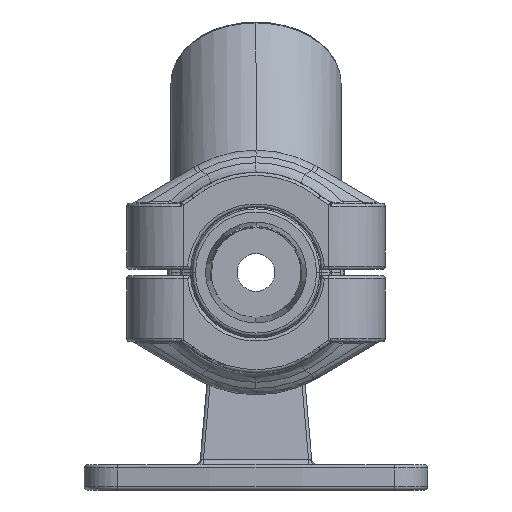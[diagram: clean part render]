
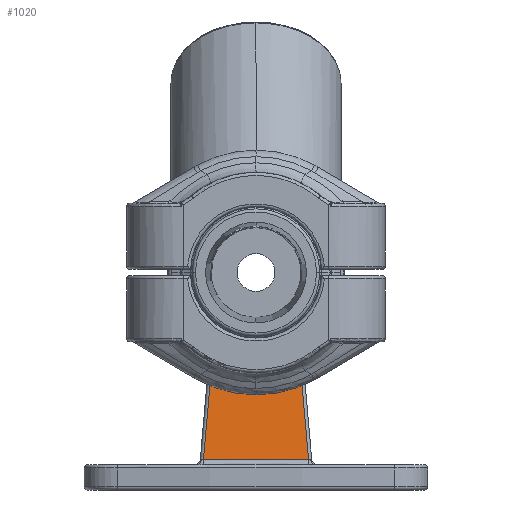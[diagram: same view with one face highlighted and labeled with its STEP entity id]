
A CAD part, left-side view. The second image highlights one B-rep face of the part: STEP entity #1020.
In plain terms, the highlighted planar face has unit normal (-0.996, 0, 0.085).
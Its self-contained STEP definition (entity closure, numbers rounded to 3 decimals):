
#395=B_SPLINE_CURVE_WITH_KNOTS('',3,(#11719,#11720,#11721,#11722,#11723,
#11724,#11725,#11726,#11727),.UNSPECIFIED.,.F.,.F.,(4,1,1,1,1,1,4),(0.,0.167,
0.333,0.5,0.667,0.833,1.),.UNSPECIFIED.);
#421=B_SPLINE_CURVE_WITH_KNOTS('',3,(#12491,#12492,#12493,#12494,#12495,
#12496,#12497,#12498,#12499,#12500,#12501,#12502,#12503),.UNSPECIFIED.,.F.,
 .F.,(4,3,3,3,4),(0.,0.32,0.5,0.788,
1.),.UNSPECIFIED.);
#801=PLANE('',#8390);
#1020=ADVANCED_FACE('',(#1689),#801,.T.);
#1689=FACE_OUTER_BOUND('',#2199,.T.);
#2199=EDGE_LOOP('',(#3772,#3773,#3774,#3775));
#2738=LINE('',#12489,#3092);
#2739=LINE('',#12505,#3093);
#3092=VECTOR('',#9427,1.);
#3093=VECTOR('',#9430,1.);
#3772=ORIENTED_EDGE('',*,*,#6789,.F.);
#3773=ORIENTED_EDGE('',*,*,#6790,.T.);
#3774=ORIENTED_EDGE('',*,*,#6791,.F.);
#3775=ORIENTED_EDGE('',*,*,#6721,.T.);
#5956=VERTEX_POINT('',#11718);
#5957=VERTEX_POINT('',#11728);
#5992=VERTEX_POINT('',#12488);
#5993=VERTEX_POINT('',#12504);
#6721=EDGE_CURVE('',#5957,#5956,#395,.T.);
#6789=EDGE_CURVE('',#5992,#5956,#2738,.T.);
#6790=EDGE_CURVE('',#5992,#5993,#421,.T.);
#6791=EDGE_CURVE('',#5957,#5993,#2739,.T.);
#8390=AXIS2_PLACEMENT_3D('',#12506,#9431,#9432);
#9427=DIRECTION('',(0.085,-0.087,0.993));
#9430=DIRECTION('',(-0.085,-0.087,-0.993));
#9431=DIRECTION('',(-0.996,0.,0.085));
#9432=DIRECTION('',(-0.085,0.,-0.996));
#11718=CARTESIAN_POINT('',(34.146,6.918,-13.395));
#11719=CARTESIAN_POINT('',(34.146,-6.918,-13.395));
#11720=CARTESIAN_POINT('',(34.114,-6.202,-13.767));
#11721=CARTESIAN_POINT('',(34.061,-4.731,-14.386));
#11722=CARTESIAN_POINT('',(34.012,-2.39,-14.958));
#11723=CARTESIAN_POINT('',(33.996,0.001,-15.148));
#11724=CARTESIAN_POINT('',(34.012,2.396,-14.958));
#11725=CARTESIAN_POINT('',(34.061,4.744,-14.382));
#11726=CARTESIAN_POINT('',(34.114,6.207,-13.764));
#11727=CARTESIAN_POINT('',(34.146,6.918,-13.395));
#11728=CARTESIAN_POINT('',(34.146,-6.918,-13.395));
#12488=CARTESIAN_POINT('',(32.76,8.338,-29.626));
#12489=CARTESIAN_POINT('',(32.678,8.422,-30.585));
#12491=CARTESIAN_POINT('',(32.76,8.338,-29.626));
#12492=CARTESIAN_POINT('',(32.762,6.559,-29.599));
#12493=CARTESIAN_POINT('',(32.763,4.779,-29.593));
#12494=CARTESIAN_POINT('',(32.763,3.,-29.59));
#12495=CARTESIAN_POINT('',(32.763,2.,-29.588));
#12496=CARTESIAN_POINT('',(32.763,1.,-29.587));
#12497=CARTESIAN_POINT('',(32.763,0.,-29.587));
#12498=CARTESIAN_POINT('',(32.763,-1.603,-29.587));
#12499=CARTESIAN_POINT('',(32.763,-3.206,-29.588));
#12500=CARTESIAN_POINT('',(32.763,-4.809,-29.595));
#12501=CARTESIAN_POINT('',(32.762,-5.985,-29.6));
#12502=CARTESIAN_POINT('',(32.762,-7.162,-29.608));
#12503=CARTESIAN_POINT('',(32.76,-8.338,-29.626));
#12504=CARTESIAN_POINT('',(32.76,-8.338,-29.626));
#12505=CARTESIAN_POINT('',(34.146,-6.918,-13.395));
#12506=CARTESIAN_POINT('',(34.35,1.5,-11.));
